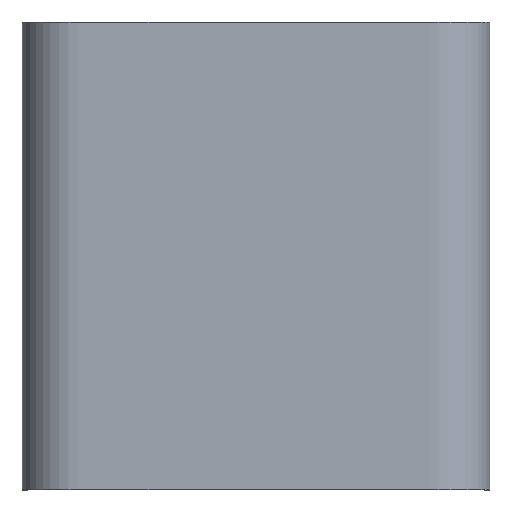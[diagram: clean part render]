
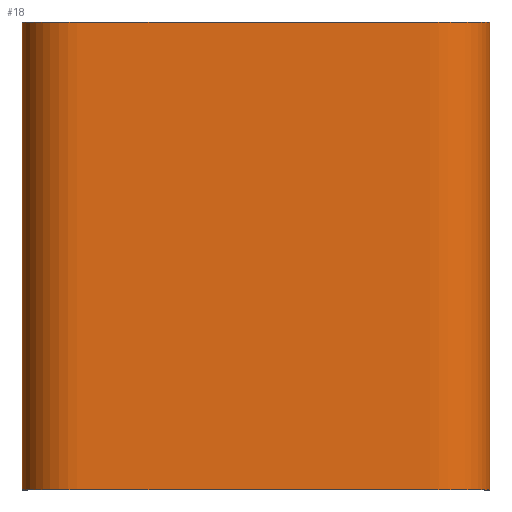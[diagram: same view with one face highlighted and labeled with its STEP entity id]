
A CAD part, top view. The second image highlights one B-rep face of the part: STEP entity #18.
In plain terms, the highlighted free-form (B-spline) face has degree [2, 1] with [11, 2] control points.
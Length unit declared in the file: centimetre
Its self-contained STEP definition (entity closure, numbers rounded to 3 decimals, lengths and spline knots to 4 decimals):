
#18=ADVANCED_FACE($,(#24),#77,.T.);
#24=FACE_OUTER_BOUND($,#30,.T.);
#30=EDGE_LOOP($,(#48,#49,#50,#51));
#48=ORIENTED_EDGE($,*,*,#67,.T.);
#49=ORIENTED_EDGE($,*,*,#64,.T.);
#50=ORIENTED_EDGE($,*,*,#66,.F.);
#51=ORIENTED_EDGE($,*,*,#61,.F.);
#61=EDGE_CURVE($,#72,#71,#83,.T.);
#64=EDGE_CURVE($,#75,#74,#85,.T.);
#66=EDGE_CURVE($,#71,#74,#92,.T.);
#67=EDGE_CURVE($,#72,#75,#93,.T.);
#71=VERTEX_POINT($,#307);
#72=VERTEX_POINT($,#308);
#74=VERTEX_POINT($,#310);
#75=VERTEX_POINT($,#311);
#77=(
BOUNDED_SURFACE()
B_SPLINE_SURFACE(2,1,((#281,#282),(#283,#284),(#285,#286),(#287,#288),(#289,
#290),(#291,#292),(#293,#294),(#295,#296),(#297,#298),(#299,#300),(#301,
#302)),.UNSPECIFIED.,.F.,.F.,.F.)
B_SPLINE_SURFACE_WITH_KNOTS((3,2,2,2,2,3),(2,2),(-161.5575,-132.5575,
-115.2788,-47.2788,-30.,-1.),(0.,90.),.UNSPECIFIED.)
GEOMETRIC_REPRESENTATION_ITEM()
RATIONAL_B_SPLINE_SURFACE(((1.,1.),(1.,1.),(1.,1.),(0.707,0.707),
(1.,1.),(1.,1.),(1.,1.),(0.707,0.707),(1.,1.),(1.,
1.),(1.,1.)))
REPRESENTATION_ITEM($)
SURFACE()
);
#83=(
BOUNDED_CURVE()
B_SPLINE_CURVE(2,(#215,#216,#217,#218,#219,#220,#221,#222,#223,#224,#225),
.UNSPECIFIED.,.F.,.F.)
B_SPLINE_CURVE_WITH_KNOTS((3,2,2,2,2,3),(1.,30.,47.2788,115.2788,
132.5575,161.5575),.UNSPECIFIED.)
CURVE()
GEOMETRIC_REPRESENTATION_ITEM()
RATIONAL_B_SPLINE_CURVE((1.,1.,1.,0.707,1.,1.,1.,0.707,
1.,1.,1.))
REPRESENTATION_ITEM($)
);
#85=(
BOUNDED_CURVE()
B_SPLINE_CURVE(2,(#239,#240,#241,#242,#243,#244,#245,#246,#247,#248,#249),
.UNSPECIFIED.,.F.,.F.)
B_SPLINE_CURVE_WITH_KNOTS((3,2,2,2,2,3),(1.,30.,47.2788,115.2788,
132.5575,161.5575),.UNSPECIFIED.)
CURVE()
GEOMETRIC_REPRESENTATION_ITEM()
RATIONAL_B_SPLINE_CURVE((1.,1.,1.,0.707,1.,1.,1.,0.707,
1.,1.,1.))
REPRESENTATION_ITEM($)
);
#92=B_SPLINE_CURVE_WITH_KNOTS($,1,(#252,#253),.UNSPECIFIED.,.F.,.F.,(2,2),
(0.,90.),.UNSPECIFIED.);
#93=B_SPLINE_CURVE_WITH_KNOTS($,1,(#254,#255),.UNSPECIFIED.,.F.,.F.,(2,2),
(0.,90.),.UNSPECIFIED.);
#215=CARTESIAN_POINT($,(90.,0.,0.));
#216=CARTESIAN_POINT($,(90.,0.,14.5));
#217=CARTESIAN_POINT($,(90.,0.,29.));
#218=CARTESIAN_POINT($,(90.,0.,40.));
#219=CARTESIAN_POINT($,(79.,0.,40.));
#220=CARTESIAN_POINT($,(45.,0.,40.));
#221=CARTESIAN_POINT($,(11.,0.,40.));
#222=CARTESIAN_POINT($,(0.,0.,40.));
#223=CARTESIAN_POINT($,(0.,0.,29.));
#224=CARTESIAN_POINT($,(0.,0.,14.5));
#225=CARTESIAN_POINT($,(0.,0.,0.));
#239=CARTESIAN_POINT($,(90.,90.,0.));
#240=CARTESIAN_POINT($,(90.,90.,14.5));
#241=CARTESIAN_POINT($,(90.,90.,29.));
#242=CARTESIAN_POINT($,(90.,90.,40.));
#243=CARTESIAN_POINT($,(79.,90.,40.));
#244=CARTESIAN_POINT($,(45.,90.,40.));
#245=CARTESIAN_POINT($,(11.,90.,40.));
#246=CARTESIAN_POINT($,(0.,90.,40.));
#247=CARTESIAN_POINT($,(0.,90.,29.));
#248=CARTESIAN_POINT($,(0.,90.,14.5));
#249=CARTESIAN_POINT($,(0.,90.,0.));
#252=CARTESIAN_POINT($,(0.,0.,0.));
#253=CARTESIAN_POINT($,(0.,90.,0.));
#254=CARTESIAN_POINT($,(90.,0.,0.));
#255=CARTESIAN_POINT($,(90.,90.,0.));
#281=CARTESIAN_POINT($,(0.,0.,0.));
#282=CARTESIAN_POINT($,(0.,90.,0.));
#283=CARTESIAN_POINT($,(0.,0.,14.5));
#284=CARTESIAN_POINT($,(0.,90.,14.5));
#285=CARTESIAN_POINT($,(0.,0.,29.));
#286=CARTESIAN_POINT($,(0.,90.,29.));
#287=CARTESIAN_POINT($,(0.,0.,40.));
#288=CARTESIAN_POINT($,(0.,90.,40.));
#289=CARTESIAN_POINT($,(11.,0.,40.));
#290=CARTESIAN_POINT($,(11.,90.,40.));
#291=CARTESIAN_POINT($,(45.,0.,40.));
#292=CARTESIAN_POINT($,(45.,90.,40.));
#293=CARTESIAN_POINT($,(79.,0.,40.));
#294=CARTESIAN_POINT($,(79.,90.,40.));
#295=CARTESIAN_POINT($,(90.,0.,40.));
#296=CARTESIAN_POINT($,(90.,90.,40.));
#297=CARTESIAN_POINT($,(90.,0.,29.));
#298=CARTESIAN_POINT($,(90.,90.,29.));
#299=CARTESIAN_POINT($,(90.,0.,14.5));
#300=CARTESIAN_POINT($,(90.,90.,14.5));
#301=CARTESIAN_POINT($,(90.,0.,0.));
#302=CARTESIAN_POINT($,(90.,90.,0.));
#307=CARTESIAN_POINT($,(0.,0.,0.));
#308=CARTESIAN_POINT($,(90.,0.,0.));
#310=CARTESIAN_POINT($,(0.,90.,0.));
#311=CARTESIAN_POINT($,(90.,90.,0.));
